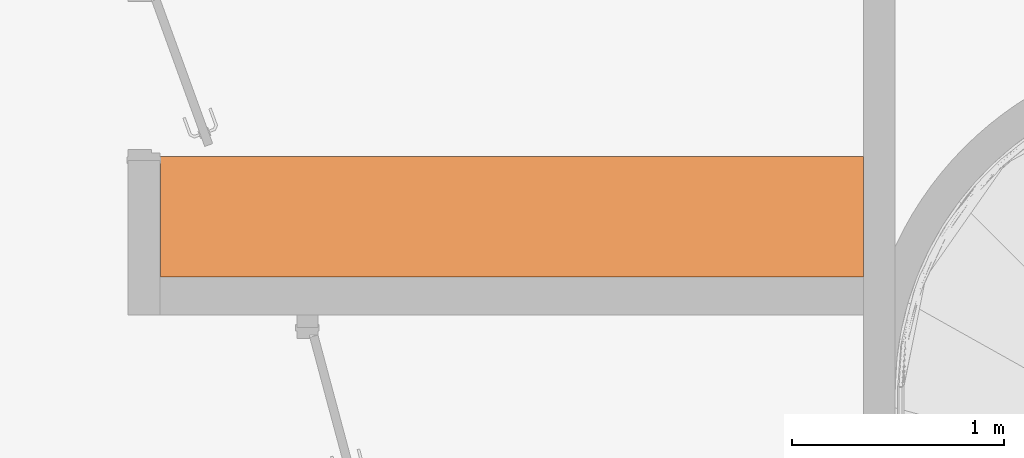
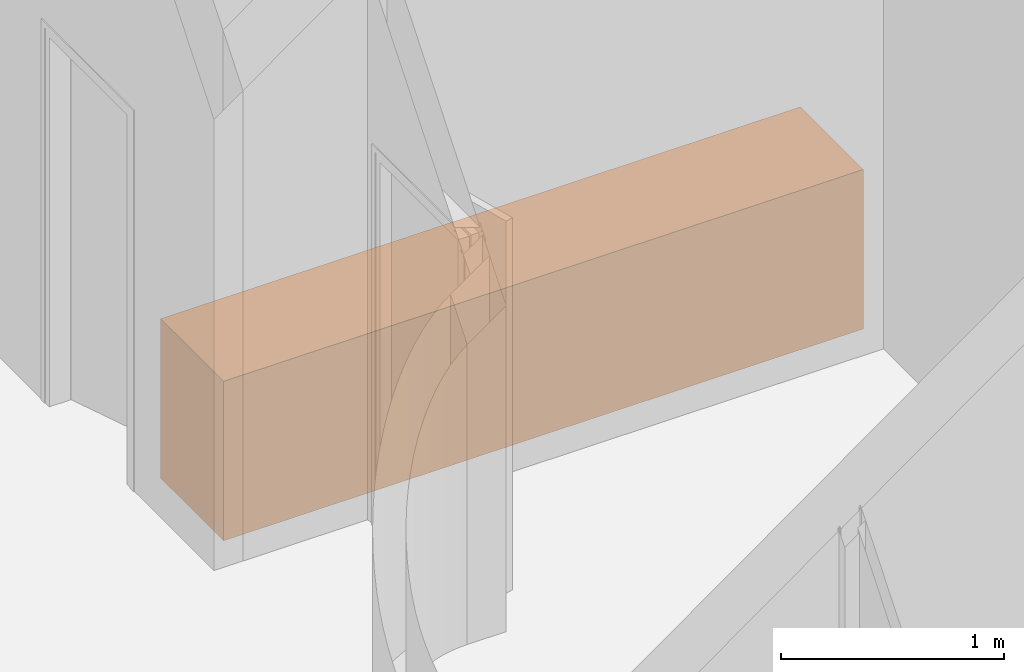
# One storey, part 4 of 4: 1 proxy.
"""IFC2X3 building model written with IfcOpenShell, lengths in metres."""

import ifcopenshell
import ifcopenshell.guid

model = None  # the IFC model being written
_history = None  # IfcOwnerHistory: only IFC2X3 demands one
_inside = {}  # id of a spatial element -> (the spatial element, [elements in it])
_under = {}  # id of a project, library or spatial element -> (it, [spatial elements below it])
_declared = {}  # id of a project -> (the project, [libraries it declares])
_typed = {}  # id of a type object -> (the type object, [elements of that type])
_made_of = {}  # id of a material, layer set ... -> (it, [elements and type objects made of it])


def new_model(schema):
    """Start an empty IFC model of exactly this schema.

    Asked for "IFC4X3", IfcOpenShell would pick the latest addendum, in which some entities
    have other attributes; the version numbers below select the first issue.
    IFC2X3 requires an IfcOwnerHistory on every rooted entity: one is made here for all.
    """
    global model, _history
    if schema == "IFC4X3":
        model = ifcopenshell.file(schema_version=(4, 3, 0, 0))
    else:
        model = ifcopenshell.file(schema=schema)
    _inside.clear()
    _under.clear()
    _declared.clear()
    _typed.clear()
    _made_of.clear()
    _history = None
    if model.schema == "IFC2X3":
        org = make("IfcOrganization", Name="unknown")
        user = make(
            "IfcPersonAndOrganization",
            ThePerson=make("IfcPerson", FamilyName="unknown"),
            TheOrganization=org,
        )
        app = make(
            "IfcApplication",
            ApplicationDeveloper=org,
            Version="unknown",
            ApplicationFullName="unknown",
            ApplicationIdentifier="unknown",
        )
        _history = make(
            "IfcOwnerHistory",
            OwningUser=user,
            OwningApplication=app,
            ChangeAction="ADDED",
            CreationDate=0,
        )
    return model


def make(cls, **values):
    """One entity of the class cls with the attributes given. An attribute that is None is left unset."""
    return model.create_entity(
        cls, **{name: value for name, value in values.items() if value is not None}
    )


def entity(cls, *values):
    """Any entity or typed value of the class cls, its attributes in the order of the schema. None: left unset."""
    e = model.create_entity(cls)
    for i, value in enumerate(values):
        if value is not None:
            e[i] = value
    return e


def rooted(cls, **values):
    """An entity with a GlobalId (a new one), such as an element, a storey or a relation."""
    return make(cls, GlobalId=ifcopenshell.guid.new(), OwnerHistory=_history, **values)


def si_unit(unit_type, name, prefix=None):
    """IfcSIUnit, for example si_unit("LENGTHUNIT", "METRE", prefix="MILLI")."""
    return make("IfcSIUnit", UnitType=unit_type, Prefix=prefix, Name=name)


def converted_unit(unit_type, name, factor, base, dimensions=None, offset=None):
    """IfcConversionBasedUnit, such as the inch: factor (a typed value) times the base unit."""
    return make(
        "IfcConversionBasedUnit"
        if offset is None
        else "IfcConversionBasedUnitWithOffset",
        ConversionOffset=offset,
        Dimensions=None
        if dimensions is None
        else entity("IfcDimensionalExponents", *dimensions),
        UnitType=unit_type,
        Name=name,
        ConversionFactor=make(
            "IfcMeasureWithUnit", ValueComponent=factor, UnitComponent=base
        ),
    )


def derived_unit(unit_type, elements):
    """IfcDerivedUnit: a product of units, each with its exponent."""
    return make(
        "IfcDerivedUnit",
        Elements=[
            make("IfcDerivedUnitElement", Unit=unit, Exponent=power)
            for unit, power in elements
        ],
        UnitType=unit_type,
    )


def assignment(units):
    """IfcUnitAssignment: the units of a project."""
    return None if units is None else make("IfcUnitAssignment", Units=units)


def point(xyz):
    """IfcCartesianPoint."""
    return None if xyz is None else make("IfcCartesianPoint", Coordinates=xyz)


def direction(xyz):
    """IfcDirection."""
    return None if xyz is None else make("IfcDirection", DirectionRatios=xyz)


def frame(location, z_axis=None, x_axis=None):
    """IfcAxis2Placement3D, a coordinate frame: its origin and axes. An axis left out is left unset."""
    return make(
        "IfcAxis2Placement3D",
        Location=point(location),
        Axis=direction(z_axis),
        RefDirection=direction(x_axis),
    )


def frame_2d(location, x_axis=None):
    """IfcAxis2Placement2D, a coordinate frame in the plane: its origin and x axis."""
    return make(
        "IfcAxis2Placement2D", Location=point(location), RefDirection=direction(x_axis)
    )


def origin():
    """The frame at (0, 0, 0) with its axes left unset."""
    return frame((0.0, 0.0, 0.0))


def place(relative_to, where):
    """IfcLocalPlacement: puts the frame where relative to a parent placement (None: the world)."""
    return make(
        "IfcLocalPlacement", PlacementRelTo=relative_to, RelativePlacement=where
    )


def context(
    kind, dimensions, precision=None, world=None, true_north=None, identifier=None
):
    """IfcGeometricRepresentationContext, for example the 3D "Model" context."""
    return make(
        "IfcGeometricRepresentationContext",
        ContextIdentifier=identifier,
        ContextType=kind,
        CoordinateSpaceDimension=dimensions,
        Precision=precision,
        WorldCoordinateSystem=world,
        TrueNorth=true_north,
    )


def subcontext(parent, identifier, kind, view, scale=None):
    """IfcGeometricRepresentationSubContext, for example "Body" below "Model"."""
    return make(
        "IfcGeometricRepresentationSubContext",
        ContextIdentifier=identifier,
        ContextType=kind,
        ParentContext=parent,
        TargetScale=scale,
        TargetView=view,
    )


def project(units=None, contexts=None):
    """IfcProject with its units and contexts."""
    return rooted(
        "IfcProject",
        Name="project",
        RepresentationContexts=contexts,
        UnitsInContext=assignment(units),
    )


def spatial(cls, under=None, at=None, **own):
    """A site, building, storey or space (cls), placed at a placement, below another one or the project."""
    s = rooted(cls, ObjectPlacement=at, **own)
    if under is not None:
        _under.setdefault(under.id(), (under, []))[1].append(s)
    return s


def profile(cls, at=None, kind="AREA", **sizes):
    """A parametric profile (cls). Its sizes go by their IFC names, for example OverallWidth=200.0."""
    return make(cls, ProfileType=kind, Position=at, **sizes)


def rectangle(**sizes):
    """IfcRectangleProfileDef."""
    return profile("IfcRectangleProfileDef", **sizes)


def extrude(swept, where, along, depth):
    """IfcExtrudedAreaSolid: the profile swept, set in the frame where, extruded along a direction by depth."""
    return make(
        "IfcExtrudedAreaSolid",
        SweptArea=swept,
        Position=where,
        ExtrudedDirection=direction(along),
        Depth=depth,
    )


def shape(context_of_items, identifier, shape_type, items):
    """IfcShapeRepresentation: the items that make up one representation, for example the "Body"."""
    return make(
        "IfcShapeRepresentation",
        ContextOfItems=context_of_items,
        RepresentationIdentifier=identifier,
        RepresentationType=shape_type,
        Items=items,
    )


def source(mapping_origin, context_of_items, identifier, shape_type, items):
    """IfcRepresentationMap: a shape defined once, which mapped items show again and again."""
    return make(
        "IfcRepresentationMap",
        MappingOrigin=mapping_origin,
        MappedRepresentation=shape(context_of_items, identifier, shape_type, items),
    )


def transform(
    local_origin,
    x_axis=None,
    y_axis=None,
    z_axis=None,
    scale=None,
    scale2=None,
    scale3=None,
    uniform=True,
):
    """IfcCartesianTransformationOperator3D, or its non-uniform kind. x_axis, y_axis, z_axis: its Axis1, 2, 3."""
    if uniform:
        return make(
            "IfcCartesianTransformationOperator3D",
            Axis1=direction(x_axis),
            Axis2=direction(y_axis),
            LocalOrigin=point(local_origin),
            Scale=scale,
            Axis3=direction(z_axis),
        )
    return make(
        "IfcCartesianTransformationOperator3DnonUniform",
        Axis1=direction(x_axis),
        Axis2=direction(y_axis),
        LocalOrigin=point(local_origin),
        Scale=scale,
        Axis3=direction(z_axis),
        Scale2=scale2,
        Scale3=scale3,
    )


def mapped(mapping_source, mapping_target):
    """IfcMappedItem: shows the shape of a source again, moved by a transform."""
    return make(
        "IfcMappedItem", MappingSource=mapping_source, MappingTarget=mapping_target
    )


def made_of(thing, what):
    """Note that an element or type object is made of a material, layer set ...; save() writes the relation."""
    if what is not None:
        _made_of.setdefault(what.id(), (what, []))[1].append(thing)
    return thing


def type_object(cls, material=None, **own):
    """A type object (cls), such as IfcWallType, which elements share."""
    return made_of(rooted(cls, **own), material)


def type_shapes(of_type, sources):
    """Give a type object the sources (RepresentationMaps) that its elements show as mapped items."""
    of_type.RepresentationMaps = sources


def element(
    cls,
    number,
    at=None,
    inside=None,
    cuts=None,
    type_object=None,
    material=None,
    context=None,
    identifier="Body",
    shape_type=None,
    held_by="IfcProductDefinitionShape",
    body=None,
    shapes=None,
    **own,
):
    """One element of the class cls, such as IfcWall. Its Tag is "e" and its number.

    at: its placement. inside: the storey or other place that contains it. cuts: it is an
    opening in that element (IfcRelVoidsElement). A single representation is given by context,
    identifier, shape_type and body (its items); several are given by shapes. held_by: the class
    of the entity that holds the representations. save() writes the other relations.
    """
    e = rooted(cls, Tag="e%d" % number, ObjectPlacement=at, **own)
    if body is not None:
        shapes = [shape(context, identifier, shape_type, body)]
    if shapes is not None:
        e.Representation = make(held_by, Representations=shapes)
    if inside is not None:
        _inside.setdefault(inside.id(), (inside, []))[1].append(e)
    if cuts is not None:
        rooted(
            "IfcRelVoidsElement", RelatingBuildingElement=cuts, RelatedOpeningElement=e
        )
    if type_object is not None:
        _typed.setdefault(type_object.id(), (type_object, []))[1].append(e)
    return made_of(e, material)


def aggregate(whole, parts):
    """IfcRelAggregates: a whole, such as a stair, and the parts it consists of."""
    return rooted("IfcRelAggregates", RelatingObject=whole, RelatedObjects=parts)


def save(model, path):
    """Write the relations noted so far, then the file.

    IfcRelAggregates (storeys below a building ...), IfcRelContainedInSpatialStructure (elements
    in a storey), IfcRelDefinesByType, IfcRelAssociatesMaterial and IfcRelDeclares: one each for
    every whole, place, type object, material and project.
    """
    for whole, parts in _under.values():
        aggregate(whole, parts)
    for where, things in _inside.values():
        rooted(
            "IfcRelContainedInSpatialStructure",
            RelatedElements=things,
            RelatingStructure=where,
        )
    for kind, things in _typed.values():
        rooted("IfcRelDefinesByType", RelatedObjects=things, RelatingType=kind)
    for what, things in _made_of.values():
        rooted("IfcRelAssociatesMaterial", RelatedObjects=things, RelatingMaterial=what)
    for by, libraries in _declared.values():
        rooted("IfcRelDeclares", RelatingContext=by, RelatedDefinitions=libraries)
    model.write(path)


model = new_model("IFC2X3")

# Units and contexts
model_context = context("Model", 3, precision=1e-05, world=origin(), true_north=direction((6.12303176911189e-17, 1.0)))
body_context = subcontext(model_context, "Body", "Model", "MODEL_VIEW")
ifc_project = project(units=[si_unit("LENGTHUNIT", "METRE"), si_unit("AREAUNIT", "SQUARE_METRE"), si_unit("VOLUMEUNIT", "CUBIC_METRE"), converted_unit("PLANEANGLEUNIT", "DEGREE", entity("IfcRatioMeasure", 0.0174532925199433), si_unit("PLANEANGLEUNIT", "RADIAN"), dimensions=[0, 0, 0, 0, 0, 0, 0]), si_unit("MASSUNIT", "GRAM", prefix="KILO"), derived_unit("MASSDENSITYUNIT", [(si_unit("MASSUNIT", "GRAM", prefix="KILO"), 1), (si_unit("LENGTHUNIT", "METRE"), -3)]), derived_unit("MOMENTOFINERTIAUNIT", [(si_unit("LENGTHUNIT", "METRE"), 4)]), si_unit("TIMEUNIT", "SECOND"), si_unit("FREQUENCYUNIT", "HERTZ"), si_unit("THERMODYNAMICTEMPERATUREUNIT", "DEGREE_CELSIUS"), derived_unit("THERMALTRANSMITTANCEUNIT", [(si_unit("MASSUNIT", "GRAM", prefix="KILO"), 1), (si_unit("THERMODYNAMICTEMPERATUREUNIT", "KELVIN"), -1), (si_unit("TIMEUNIT", "SECOND"), -3)]), derived_unit("VOLUMETRICFLOWRATEUNIT", [(si_unit("LENGTHUNIT", "METRE"), 3), (si_unit("TIMEUNIT", "SECOND"), -1)]), si_unit("ELECTRICCURRENTUNIT", "AMPERE"), si_unit("ELECTRICVOLTAGEUNIT", "VOLT"), si_unit("POWERUNIT", "WATT"), si_unit("FORCEUNIT", "NEWTON", prefix="KILO"), si_unit("ILLUMINANCEUNIT", "LUX"), si_unit("LUMINOUSFLUXUNIT", "LUMEN"), si_unit("LUMINOUSINTENSITYUNIT", "CANDELA"), derived_unit("USERDEFINED", [(si_unit("MASSUNIT", "GRAM", prefix="KILO"), -1), (si_unit("LENGTHUNIT", "METRE"), -2), (si_unit("TIMEUNIT", "SECOND"), 3), (si_unit("LUMINOUSFLUXUNIT", "LUMEN"), 1)]), derived_unit("LINEARVELOCITYUNIT", [(si_unit("LENGTHUNIT", "METRE"), 1), (si_unit("TIMEUNIT", "SECOND"), -1)]), si_unit("PRESSUREUNIT", "PASCAL"), derived_unit("USERDEFINED", [(si_unit("LENGTHUNIT", "METRE"), -2), (si_unit("MASSUNIT", "GRAM", prefix="KILO"), 1), (si_unit("TIMEUNIT", "SECOND"), -2)]), derived_unit("LINEARFORCEUNIT", [(si_unit("MASSUNIT", "GRAM", prefix="KILO"), 1), (si_unit("LENGTHUNIT", "METRE"), 1), (si_unit("TIMEUNIT", "SECOND"), -2), (si_unit("LENGTHUNIT", "METRE"), -1)]), derived_unit("PLANARFORCEUNIT", [(si_unit("MASSUNIT", "GRAM", prefix="KILO"), 1), (si_unit("LENGTHUNIT", "METRE"), 1), (si_unit("TIMEUNIT", "SECOND"), -2), (si_unit("LENGTHUNIT", "METRE"), -2)])], contexts=[model_context])

# Site, building, storey
site_placement = place(None, origin())
site = spatial("IfcSite", under=ifc_project, at=site_placement, Name="Default", CompositionType="ELEMENT")
building_placement = place(site_placement, origin())
building = spatial("IfcBuilding", under=site, at=building_placement, CompositionType="ELEMENT")
storey_placement = place(building_placement, frame((0.0, 0.0, 4.12187276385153)))
storey = spatial("IfcBuildingStorey", under=building, at=storey_placement, Name="Niveau 1", CompositionType="ELEMENT", Elevation=4.12187276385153)

# Proxy
building_element_proxy_type = type_object("IfcBuildingElementProxyType", Name="Plan de travail:Plan de travail", PredefinedType="NOTDEFINED")
shared_shape = source(origin(), body_context, "Body", "SweptSolid", [
    extrude(rectangle(XDim=0.56688874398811, YDim=3.31750000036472, at=frame_2d((2.77555756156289e-16, 0.0), x_axis=(1.0, 0.0))), frame((-14.1314891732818, -4.54567076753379, 3.36187276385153), z_axis=(0.0, 0.0, 1.0), x_axis=(0.0, 1.0, 0.0)), (0.0, 0.0, 1.0), 0.87435774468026),
])
type_shapes(building_element_proxy_type, [shared_shape])
proxy_placement = place(storey_placement, frame((0.0, 0.0, -3.36187276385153)))
element("IfcBuildingElementProxy", 1, at=proxy_placement, inside=storey, type_object=building_element_proxy_type, Name="Plan de travail:Plan de travail", ObjectType="Plan de travail:Plan de travail", context=body_context, shape_type="MappedRepresentation", body=[
    mapped(shared_shape, transform((0.0, 0.0, 0.0), scale=1.0)),
])

save(model, "model.ifc")
